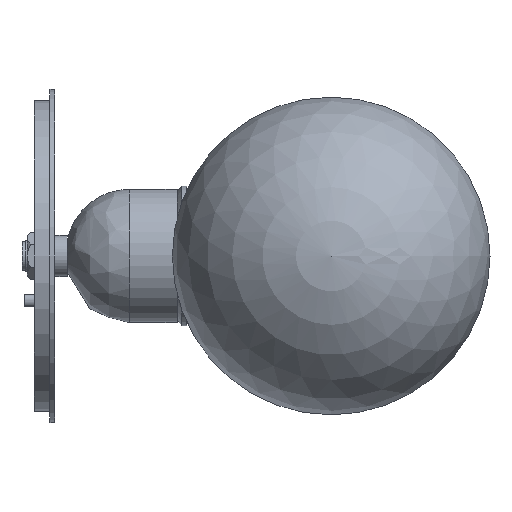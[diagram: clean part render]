
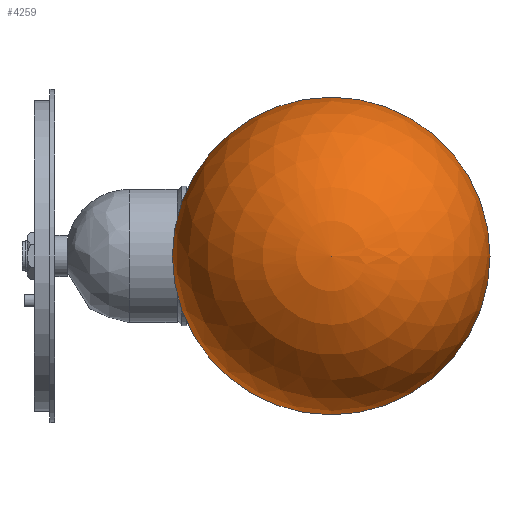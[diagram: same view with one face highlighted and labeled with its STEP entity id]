
A CAD part, left-side view. The second image highlights one B-rep face of the part: STEP entity #4259.
In plain terms, the highlighted spherical face has radius 50 mm.
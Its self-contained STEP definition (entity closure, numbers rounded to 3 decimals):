
#49=SPHERICAL_SURFACE('',#4690,50.);
#345=FACE_OUTER_BOUND('',#571,.T.);
#571=EDGE_LOOP('',(#3558,#3559,#3560,#3561));
#786=CIRCLE('',#4685,50.);
#788=CIRCLE('',#4687,50.);
#789=CIRCLE('',#4691,50.);
#1882=VERTEX_POINT('',#7031);
#1883=VERTEX_POINT('',#7032);
#1887=VERTEX_POINT('',#8371);
#2444=EDGE_CURVE('',#1882,#1883,#786,.T.);
#2447=EDGE_CURVE('',#1883,#1882,#788,.T.);
#2451=EDGE_CURVE('',#1887,#1883,#789,.T.);
#3558=ORIENTED_EDGE('',*,*,#2444,.T.);
#3559=ORIENTED_EDGE('',*,*,#2451,.F.);
#3560=ORIENTED_EDGE('',*,*,#2451,.T.);
#3561=ORIENTED_EDGE('',*,*,#2447,.T.);
#4259=ADVANCED_FACE('',(#345),#49,.T.);
#4685=AXIS2_PLACEMENT_3D('',#7033,#5801,#5802);
#4687=AXIS2_PLACEMENT_3D('',#7037,#5806,#5807);
#4690=AXIS2_PLACEMENT_3D('',#8370,#5813,#5814);
#4691=AXIS2_PLACEMENT_3D('',#8372,#5815,#5816);
#5801=DIRECTION('center_axis',(-1.,0.,0.));
#5802=DIRECTION('ref_axis',(0.,0.,1.));
#5806=DIRECTION('center_axis',(-1.,0.,0.));
#5807=DIRECTION('ref_axis',(0.,0.,1.));
#5813=DIRECTION('center_axis',(-1.,0.,0.));
#5814=DIRECTION('ref_axis',(0.,1.,0.));
#5815=DIRECTION('center_axis',(0.,0.,
1.));
#5816=DIRECTION('ref_axis',(0.,-1.,0.));
#7031=CARTESIAN_POINT('',(-200.,-87.05,-2.5));
#7032=CARTESIAN_POINT('',(-200.,-137.05,-52.5));
#7033=CARTESIAN_POINT('Origin',(-200.,-87.05,-52.5));
#7037=CARTESIAN_POINT('Origin',(-200.,-87.05,-52.5));
#8370=CARTESIAN_POINT('Origin',(-200.,-87.05,-52.5));
#8371=CARTESIAN_POINT('',(-250.,-87.05,-52.5));
#8372=CARTESIAN_POINT('Origin',(-200.,-87.05,-52.5));
